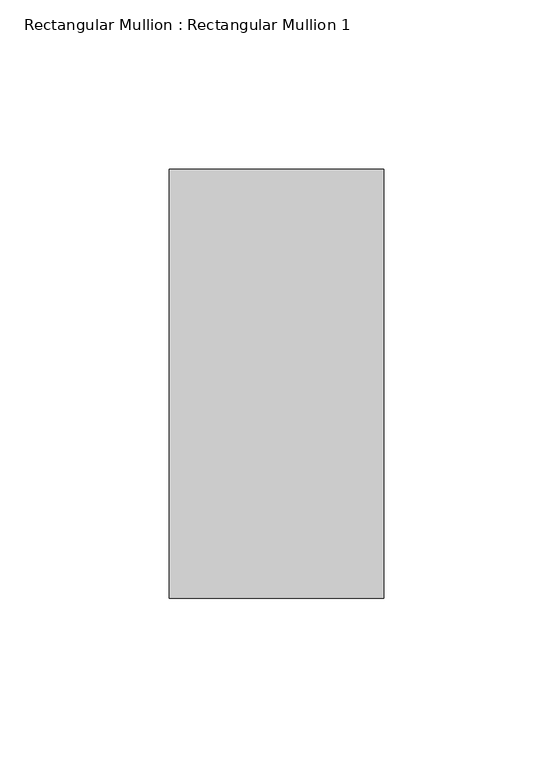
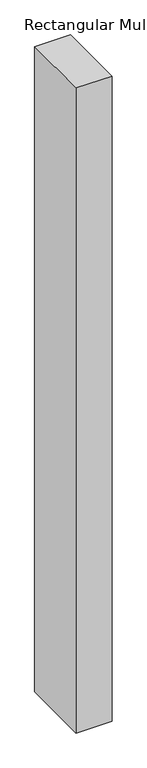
"""IFC4 building model written with IfcOpenShell, lengths in millimetres: member geometry, Rectangular Mullion : Rectangular Mullion 1."""

from ifc_helpers import new_model, si_unit, frame, origin, place, context, project, spatial, polyline, outline, extrude, source, transform, mapped, element, save


def rectangular_mullion_rectangular_mullion_1_6652bda1(model_context):
    return source(origin(), model_context, "Body", "SweptSolid", [
        extrude(outline(polyline([(0.0, 63.5), (0.0, -63.5), (-63.5, -63.5), (-63.5, 63.5), (0.0, 63.5)])), frame((0.0, 0.0, -1209.1475583), z_axis=(0.0, 0.0, 1.0), x_axis=(1.0, 0.0, 0.0)), (0.0, 0.0, 1.0), 1209.1475583),
    ])


if __name__ == "__main__":
    model = new_model("IFC4")
    model_context = context("Model", 3, world=origin())
    ifc_project = project(units=[si_unit("LENGTHUNIT", "METRE", prefix="MILLI")], contexts=[model_context])
    site = spatial("IfcSite", under=ifc_project)
    building = spatial("IfcBuilding", under=site)
    placement = place(None, origin())
    rectangular_mullion_rectangular_mullion_1_shape = rectangular_mullion_rectangular_mullion_1_6652bda1(model_context)
    element("IfcMember", 1, ObjectType="Rectangular Mullion : Rectangular Mullion 1", at=placement, inside=building, context=model_context, shape_type="MappedRepresentation", body=[
        mapped(rectangular_mullion_rectangular_mullion_1_shape, transform((0.0, 0.0, 0.0), x_axis=(1.0, 0.0, 0.0), y_axis=(0.0, 1.0, 0.0), z_axis=(0.0, 0.0, 1.0))),
    ])
    save(model, "model.ifc")
